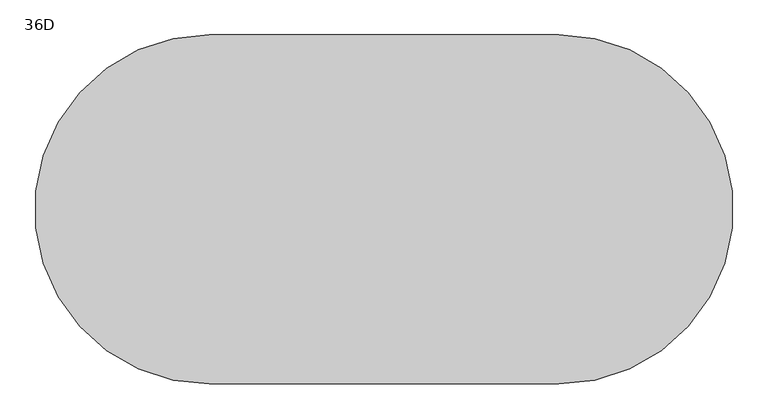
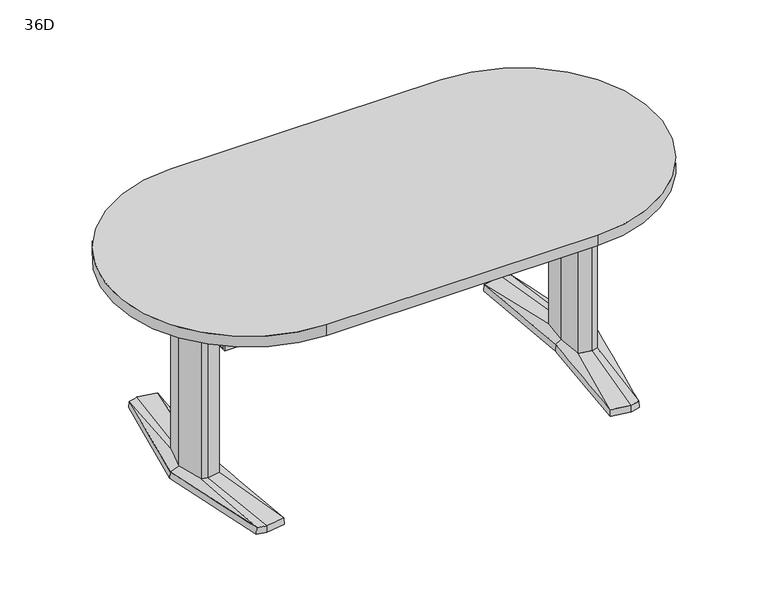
"""IFC4 building model written with IfcOpenShell, lengths in millimetres: furniture geometry, Coalesse_AM_Table_Conference_ETable2_Racetrack_72in_AluminiumBase : 36D."""

from ifc_helpers import new_model, si_unit, point, frame, frame_2d, origin, place, context, project, spatial, polyline, circle_curve, trimmed, segment, composite_curve, outline, extrude, source, transform, mapped, element, save
from ifc_brep_helpers import plane_surface, spline_surface, advanced_brep


def furniture_36d_105f3647(model_context):
    return source(origin(), model_context, "Body", "SolidModel", [
        advanced_brep(
        [(614.8503471, -379.3768856, 25.4), (644.5756636, -371.5332654, 25.4), (668.2327243, -89.293702, 36.5125), (648.9795254, -94.605478, 36.5125), (606.0521001, -87.0529327, 36.5125), (551.7612538, -368.5071562, 25.4), (597.9364207, 0.0, 36.5125), (579.8389754, 0.3970149, 25.4), (606.0521001, 87.0529327, 36.5125), (551.7615002, 368.5172593, 25.4), (648.9795254, 94.605478, 36.5125), (614.8502233, 379.3769183, 25.4), (668.2327243, 89.293702, 36.5125), (644.7535458, 371.4863276, 25.4), (692.1595251, 0.0, 36.5125), (721.4851663, 0.0003516, 25.4), (578.2468742, 0.3968871, 3.175), (550.06875, 369.8367279, 3.175), (614.9213004, 381.0, 3.175), (646.1093245, 372.7704151, 3.175), (723.10625, 0.0, 3.175), (645.9309817, -372.8174744, 3.175), (614.9213004, -381.0, 3.175), (550.06875, -369.8264415, 3.175), (649.5979264, 107.6121478, 3.175), (594.3065451, 97.8843184, 3.175), (585.1810887, 0.0, 3.175), (594.3065451, -97.8843184, 3.175), (649.5979264, -107.6121478, 3.175), (678.6183473, -99.6056872, 3.175), (705.3083085, 0.0, 3.175), (678.6183473, 99.6056872, 3.175), (613.4286812, 346.9152841, 3.175), (557.7811371, 337.3364985, 3.175), (560.1889918, 324.8641942, 3.175), (612.8600644, 333.9306305, 3.175), (648.6725609, 324.4807859, 3.175), (647.5544526, 337.9105158, 3.175), (613.4286812, -346.9152841, 3.175), (647.5544526, -337.9105158, 3.175), (648.6725609, -324.4807859, 3.175), (612.8600644, -333.9306305, 3.175), (560.1889918, -324.8641942, 3.175), (557.7811371, -337.3364985, 3.175), (649.5979264, 107.6121478, 0.0), (678.6183473, 99.6056872, 0.0), (705.3083085, 0.0, 0.0), (678.6183473, -99.6056872, 0.0), (649.5979264, -107.6121478, 0.0), (594.3065451, -97.8843184, 0.0), (585.1810887, 0.0, 0.0), (594.3065451, 97.8843184, 0.0), (613.4286812, 346.9152841, 0.0), (647.5544526, 337.9105158, 0.0), (648.6725609, 324.4807859, 0.0), (612.8600644, 333.9306305, 0.0), (560.1889918, 324.8641942, 0.0), (557.7811371, 337.3364985, 0.0), (613.4286812, -346.9152841, 0.0), (557.7811371, -337.3364985, 0.0), (560.1889918, -324.8641942, 0.0), (612.8600644, -333.9306305, 0.0), (648.6725609, -324.4807859, 0.0), (647.5544526, -337.9105158, 0.0), (668.2327243, 89.293702, 698.5), (648.9795254, 94.605478, 698.5), (606.0521001, 87.0529327, 698.5), (597.9364207, 0.0, 698.5), (606.0521001, -87.0529327, 698.5), (648.9795254, -94.605478, 698.5), (668.2327243, -89.293702, 698.5), (692.1595251, 0.0, 698.5)],
        [
            (0, 1),
            (1, 2),
            (2, 3),
            (3, 0),
            (3, 4),
            (4, 5),
            (5, 0),
            (4, 6),
            (6, 7),
            (7, 5),
            (6, 8),
            (8, 9),
            (9, 7),
            (8, 10),
            (10, 11),
            (11, 9),
            (10, 12),
            (12, 13),
            (13, 11),
            (12, 14),
            (14, 15),
            (15, 13),
            (1, 15),
            (14, 2),
            (16, 17),
            (17, 18),
            (18, 19),
            (19, 20),
            (20, 21),
            (21, 22),
            (22, 23),
            (23, 16),
            (24, 25),
            (25, 26),
            (26, 27),
            (27, 28),
            (28, 29),
            (29, 30),
            (30, 31),
            (31, 24),
            (32, 33),
            (33, 34),
            (34, 35),
            (35, 36),
            (36, 37),
            (37, 32),
            (38, 39),
            (39, 40),
            (40, 41),
            (41, 42),
            (42, 43),
            (43, 38),
            (16, 7),
            (9, 17),
            (11, 18),
            (13, 19),
            (15, 20),
            (1, 21),
            (0, 22),
            (5, 23),
            (44, 45),
            (45, 46),
            (46, 47),
            (47, 48),
            (48, 49),
            (49, 50),
            (50, 51),
            (51, 44),
            (52, 53),
            (53, 54),
            (54, 55),
            (55, 56),
            (56, 57),
            (57, 52),
            (58, 59),
            (59, 60),
            (60, 61),
            (61, 62),
            (62, 63),
            (63, 58),
            (44, 24),
            (31, 45),
            (30, 46),
            (29, 47),
            (28, 48),
            (27, 49),
            (26, 50),
            (25, 51),
            (52, 32),
            (37, 53),
            (36, 54),
            (35, 55),
            (34, 56),
            (33, 57),
            (58, 38),
            (43, 59),
            (42, 60),
            (41, 61),
            (40, 62),
            (39, 63),
            (64, 65),
            (65, 66),
            (66, 67),
            (67, 68),
            (68, 69),
            (69, 70),
            (70, 71),
            (71, 64),
            (71, 14),
            (12, 64),
            (70, 2),
            (69, 3),
            (68, 4),
            (67, 6),
            (66, 8),
            (65, 10),
        ],
        [
            spline_surface(1, 1, [[(644.5756636, -371.5332654, 25.4), (614.8503471, -379.3768856, 25.4)], [(668.2327243, -89.293702, 36.5125), (648.9795254, -94.605478, 36.5125)]], [2, 2], [2, 2], [0.0, 1.0], [0.0, 1.0]),
            spline_surface(1, 1, [[(614.8503471, -379.3768856, 25.4), (551.7612538, -368.5071562, 25.4)], [(648.9795254, -94.605478, 36.5125), (606.0521001, -87.0529327, 36.5125)]], [2, 2], [2, 2], [0.0, 1.0], [0.0, 1.0]),
            spline_surface(1, 1, [[(551.7612538, -368.5071562, 25.4), (579.8389754, 0.3970149, 25.4)], [(606.0521001, -87.0529327, 36.5125), (597.9364207, 0.0, 36.5125)]], [2, 2], [2, 2], [0.0, 1.0], [0.0, 1.0]),
            spline_surface(1, 1, [[(579.8389754, 0.3970149, 25.4), (551.7615002, 368.5172593, 25.4)], [(597.9364207, 0.0, 36.5125), (606.0521001, 87.0529327, 36.5125)]], [2, 2], [2, 2], [0.0, 1.0], [0.0, 1.0]),
            spline_surface(1, 1, [[(551.7615002, 368.5172593, 25.4), (614.8502233, 379.3769183, 25.4)], [(606.0521001, 87.0529327, 36.5125), (648.9795254, 94.605478, 36.5125)]], [2, 2], [2, 2], [0.0, 1.0], [0.0, 1.0]),
            spline_surface(1, 1, [[(614.8502233, 379.3769183, 25.4), (644.7535458, 371.4863276, 25.4)], [(648.9795254, 94.605478, 36.5125), (668.2327243, 89.293702, 36.5125)]], [2, 2], [2, 2], [0.0, 1.0], [0.0, 1.0]),
            spline_surface(1, 1, [[(644.7535458, 371.4863276, 25.4), (721.4851663, 0.0003516, 25.4)], [(668.2327243, 89.293702, 36.5125), (692.1595251, 0.0, 36.5125)]], [2, 2], [2, 2], [0.0, 1.0], [0.0, 1.0]),
            spline_surface(1, 1, [[(721.4851663, 0.0003516, 25.4), (644.5756636, -371.5332654, 25.4)], [(692.1595251, 0.0, 36.5125), (668.2327243, -89.293702, 36.5125)]], [2, 2], [2, 2], [0.0, 1.0], [0.0, 1.0]),
            plane_surface(frame((615.4216914, 0.0450143, 3.175), z_axis=(0.0, 0.0, -1.0), x_axis=(-0.9669048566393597, -0.2551372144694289, 0.0))),
            plane_surface(frame((564.1578121, 185.1168075, 3.175), z_axis=(-0.9945699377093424, -0.07585840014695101, 0.0712470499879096), x_axis=(-0.07605167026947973, 0.9971038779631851, 0.0))),
            plane_surface(frame((582.4950252, 375.418364, 3.175), z_axis=(-0.1692071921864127, 0.9830019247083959, 0.07124704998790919), x_axis=(0.985506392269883, 0.16963829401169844, 0.0))),
            plane_surface(frame((630.5153124, 376.8852076, 3.175), z_axis=(0.2544888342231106, 0.9644476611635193, 0.07124704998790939), x_axis=(0.9669048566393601, -0.25513721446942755, 0.0))),
            plane_surface(frame((684.6077872, 186.3852076, 3.175), z_axis=(0.9768383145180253, 0.2017690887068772, 0.07124704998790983), x_axis=(0.20228315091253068, -0.9793270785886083, 0.0))),
            plane_surface(frame((684.5186158, -186.4087372, 3.175), z_axis=(0.9767507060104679, -0.20219276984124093, 0.07124704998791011), x_axis=(-0.2027079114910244, -0.9792392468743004, 0.0))),
            plane_surface(frame((630.426141, -376.9087372, 3.175), z_axis=(0.2544888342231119, -0.9644476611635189, 0.0712470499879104), x_axis=(-0.9669048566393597, -0.2551372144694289, 0.0))),
            plane_surface(frame((582.4950252, -375.4132207, 3.175), z_axis=(-0.16935861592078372, -0.982975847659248, 0.07124704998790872), x_axis=(-0.9854802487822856, 0.16979010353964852, 0.0))),
            plane_surface(frame((564.1578121, -184.7147772, 3.175), z_axis=(-0.9945820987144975, 0.07569878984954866, 0.07124704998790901), x_axis=(0.07589165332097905, 0.9971160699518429, 0.0))),
            plane_surface(frame((652.3571479, 106.8509046, 0.0), z_axis=(0.0, 0.0, -1.0000000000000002), x_axis=(-0.9639855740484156, 0.26595453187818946, 0.0))),
            plane_surface(frame((649.5979264, 107.6121478, 3.175), z_axis=(0.26595453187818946, 0.9639855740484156, 0.0), x_axis=(0.0, 0.0, -1.0))),
            plane_surface(frame((678.6183473, 99.6056872, 3.175), z_axis=(0.9659241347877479, 0.2588253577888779, 0.0), x_axis=(0.0, 0.0, -1.0))),
            plane_surface(frame((705.3083085, 0.0, 3.175), z_axis=(0.9659241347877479, -0.2588253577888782, 0.0), x_axis=(0.0, 0.0, -1.0))),
            plane_surface(frame((678.6183473, -99.6056872, 3.175), z_axis=(0.26595453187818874, -0.9639855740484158, 0.0), x_axis=(0.0, 0.0, -1.0))),
            plane_surface(frame((649.5979264, -107.6121478, 3.175), z_axis=(-0.17327617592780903, -0.9848732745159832, 0.0), x_axis=(0.0, 0.0, -1.0))),
            plane_surface(frame((594.3065451, -97.8843184, 3.175), z_axis=(-0.9956824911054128, -0.0928244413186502, 0.0), x_axis=(0.0, 0.0, -1.0))),
            plane_surface(frame((585.1810887, 0.0, 3.175), z_axis=(-0.9956824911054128, 0.09282444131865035, 0.0), x_axis=(0.0, 0.0, -1.0))),
            plane_surface(frame((594.3065451, 97.8843184, 3.175), z_axis=(-0.17327617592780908, 0.984873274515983, 0.0), x_axis=(0.0, 0.0, -1.0))),
            plane_surface(frame((613.4286812, 346.9152841, 3.175), z_axis=(0.25513721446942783, 0.9669048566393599, 0.0), x_axis=(0.0, 0.0, -1.0))),
            plane_surface(frame((647.5544526, 337.9105158, 3.175), z_axis=(0.9965521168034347, 0.0829691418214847, 0.0), x_axis=(0.0, 0.0, -1.0))),
            plane_surface(frame((648.6725609, 324.4807859, 3.175), z_axis=(-0.25513721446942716, -0.9669048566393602, 0.0), x_axis=(0.0, 0.0, -1.0))),
            plane_surface(frame((612.8600644, 333.9306305, 3.175), z_axis=(0.16963829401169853, -0.985506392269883, 0.0), x_axis=(0.0, 0.0, -1.0))),
            plane_surface(frame((560.1889918, 324.8641942, 3.175), z_axis=(-0.9818699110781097, -0.18955600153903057, 0.0), x_axis=(0.0, 0.0, -1.0))),
            plane_surface(frame((557.7811371, 337.3364985, 3.175), z_axis=(-0.16963829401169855, 0.9855063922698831, 0.0), x_axis=(0.0, 0.0, -1.0))),
            plane_surface(frame((613.4286812, -346.9152841, 3.175), z_axis=(-0.1696382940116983, -0.9855063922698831, 0.0), x_axis=(0.0, 0.0, -1.0))),
            plane_surface(frame((557.7811371, -337.3364985, 3.175), z_axis=(-0.9818699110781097, 0.18955600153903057, 0.0), x_axis=(0.0, 0.0, -1.0))),
            plane_surface(frame((560.1889918, -324.8641942, 3.175), z_axis=(0.16963829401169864, 0.985506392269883, 0.0), x_axis=(0.0, 0.0, -1.0))),
            plane_surface(frame((612.8600644, -333.9306305, 3.175), z_axis=(-0.2551372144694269, 0.9669048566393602, 0.0), x_axis=(0.0, 0.0, -1.0))),
            plane_surface(frame((648.6725609, -324.4807859, 3.175), z_axis=(0.9965521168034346, -0.0829691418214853, 0.0), x_axis=(0.0, 0.0, -1.0))),
            plane_surface(frame((647.5544526, -337.9105158, 3.175), z_axis=(0.2551372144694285, -0.9669048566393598, 0.0), x_axis=(0.0, 0.0, -1.0))),
            plane_surface(frame((692.1595251, 0.0, 698.5), z_axis=(0.0, 0.0, 1.0), x_axis=(0.25882535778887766, -0.965924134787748, 0.0))),
            plane_surface(frame((668.2327243, 89.293702, 698.5), z_axis=(0.965924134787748, 0.25882535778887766, 0.0), x_axis=(0.0, 0.0, -1.0))),
            plane_surface(frame((692.1595251, 0.0, 698.5), z_axis=(0.965924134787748, -0.2588253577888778, 0.0), x_axis=(0.0, 0.0, -1.0))),
            plane_surface(frame((668.2327243, -89.293702, 698.5), z_axis=(0.2659545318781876, -0.963985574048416, 0.0), x_axis=(0.0, 0.0, -1.0))),
            plane_surface(frame((648.9795254, -94.605478, 698.5), z_axis=(-0.1732761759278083, -0.9848732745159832, 0.0), x_axis=(0.0, 0.0, -1.0))),
            plane_surface(frame((606.0521001, -87.0529327, 698.5), z_axis=(-0.9956824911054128, -0.0928244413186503, 0.0), x_axis=(0.0, 0.0, -1.0))),
            plane_surface(frame((597.9364207, 0.0, 698.5), z_axis=(-0.9956824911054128, 0.09282444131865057, 0.0), x_axis=(0.0, 0.0, -1.0))),
            plane_surface(frame((606.0521001, 87.0529327, 698.5), z_axis=(-0.17327617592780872, 0.9848732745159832, 0.0), x_axis=(0.0, 0.0, -1.0))),
            plane_surface(frame((648.9795254, 94.605478, 698.5), z_axis=(0.26595453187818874, 0.9639855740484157, 0.0), x_axis=(0.0, 0.0, -1.0))),
        ],
        [
            (0, [[1, 2, 3, 4]]),
            (1, [[5, 6, 7, -4]]),
            (2, [[8, 9, 10, -6]]),
            (3, [[11, 12, 13, -9]]),
            (4, [[14, 15, 16, -12]]),
            (5, [[17, 18, 19, -15]]),
            (6, [[20, 21, 22, -18]]),
            (7, [[23, -21, 24, -2]]),
            (8, [[25, 26, 27, 28, 29, 30, 31, 32], [33, 34, 35, 36, 37, 38, 39, 40], [41, 42, 43, 44, 45, 46], [47, 48, 49, 50, 51, 52]]),
            (9, [[53, -13, 54, -25]]),
            (10, [[-54, -16, 55, -26]]),
            (11, [[-55, -19, 56, -27]]),
            (12, [[-56, -22, 57, -28]]),
            (13, [[-57, -23, 58, -29]]),
            (14, [[-58, -1, 59, -30]]),
            (15, [[-59, -7, 60, -31]]),
            (16, [[-60, -10, -53, -32]]),
            (17, [[61, 62, 63, 64, 65, 66, 67, 68]]),
            (17, [[69, 70, 71, 72, 73, 74]]),
            (17, [[75, 76, 77, 78, 79, 80]]),
            (18, [[81, -40, 82, -61]]),
            (19, [[-82, -39, 83, -62]]),
            (20, [[-83, -38, 84, -63]]),
            (21, [[-84, -37, 85, -64]]),
            (22, [[-85, -36, 86, -65]]),
            (23, [[-86, -35, 87, -66]]),
            (24, [[-87, -34, 88, -67]]),
            (25, [[-88, -33, -81, -68]]),
            (26, [[89, -46, 90, -69]]),
            (27, [[-90, -45, 91, -70]]),
            (28, [[-91, -44, 92, -71]]),
            (29, [[-92, -43, 93, -72]]),
            (30, [[-93, -42, 94, -73]]),
            (31, [[-94, -41, -89, -74]]),
            (32, [[95, -52, 96, -75]]),
            (33, [[-96, -51, 97, -76]]),
            (34, [[-97, -50, 98, -77]]),
            (35, [[-98, -49, 99, -78]]),
            (36, [[-99, -48, 100, -79]]),
            (37, [[-100, -47, -95, -80]]),
            (38, [[101, 102, 103, 104, 105, 106, 107, 108]]),
            (39, [[109, -20, 110, -108]]),
            (40, [[111, -24, -109, -107]]),
            (41, [[112, -3, -111, -106]]),
            (42, [[113, -5, -112, -105]]),
            (43, [[114, -8, -113, -104]]),
            (44, [[115, -11, -114, -103]]),
            (45, [[116, -14, -115, -102]]),
            (46, [[-110, -17, -116, -101]]),
        ],
    ),
        advanced_brep(
        [(-614.8503471, -379.3768856, 25.4), (-648.9795254, -94.605478, 36.5125), (-668.2327243, -89.293702, 36.5125), (-644.5756636, -371.5332654, 25.4), (-551.7612538, -368.5071562, 25.4), (-606.0521001, -87.0529327, 36.5125), (-579.8389754, 0.3970149, 25.4), (-597.9364207, 0.0, 36.5125), (-551.7615002, 368.5172593, 25.4), (-606.0521001, 87.0529327, 36.5125), (-614.8502233, 379.3769183, 25.4), (-648.9795254, 94.605478, 36.5125), (-644.7535458, 371.4863276, 25.4), (-668.2327243, 89.293702, 36.5125), (-721.4851663, 0.0003516, 25.4), (-692.1595251, 0.0, 36.5125), (-578.2468742, 0.3968871, 3.175), (-550.06875, -369.8264415, 3.175), (-614.9213004, -381.0, 3.175), (-645.9309817, -372.8174744, 3.175), (-723.10625, 0.0, 3.175), (-646.1093245, 372.7704151, 3.175), (-614.9213004, 381.0, 3.175), (-550.06875, 369.8367279, 3.175), (-649.5979264, 107.6121478, 3.175), (-678.6183473, 99.6056872, 3.175), (-705.3083085, 0.0, 3.175), (-678.6183473, -99.6056872, 3.175), (-649.5979264, -107.6121478, 3.175), (-594.3065451, -97.8843184, 3.175), (-585.1810887, 0.0, 3.175), (-594.3065451, 97.8843184, 3.175), (-613.4286812, 346.9152841, 3.175), (-647.5544526, 337.9105158, 3.175), (-648.6725609, 324.4807859, 3.175), (-612.8600644, 333.9306305, 3.175), (-560.1889918, 324.8641942, 3.175), (-557.7811371, 337.3364985, 3.175), (-613.4286812, -346.9152841, 3.175), (-557.7811371, -337.3364985, 3.175), (-560.1889918, -324.8641942, 3.175), (-612.8600644, -333.9306305, 3.175), (-648.6725609, -324.4807859, 3.175), (-647.5544526, -337.9105158, 3.175), (-649.5979264, 107.6121478, 0.0), (-594.3065451, 97.8843184, 0.0), (-585.1810887, 0.0, 0.0), (-594.3065451, -97.8843184, 0.0), (-649.5979264, -107.6121478, 0.0), (-678.6183473, -99.6056872, 0.0), (-705.3083085, 0.0, 0.0), (-678.6183473, 99.6056872, 0.0), (-613.4286812, 346.9152841, 0.0), (-557.7811371, 337.3364985, 0.0), (-560.1889918, 324.8641942, 0.0), (-612.8600644, 333.9306305, 0.0), (-648.6725609, 324.4807859, 0.0), (-647.5544526, 337.9105158, 0.0), (-613.4286812, -346.9152841, 0.0), (-647.5544526, -337.9105158, 0.0), (-648.6725609, -324.4807859, 0.0), (-612.8600644, -333.9306305, 0.0), (-560.1889918, -324.8641942, 0.0), (-557.7811371, -337.3364985, 0.0), (-668.2327243, 89.293702, 698.5), (-692.1595251, 0.0, 698.5), (-668.2327243, -89.293702, 698.5), (-648.9795254, -94.605478, 698.5), (-606.0521001, -87.0529327, 698.5), (-597.9364207, 0.0, 698.5), (-606.0521001, 87.0529327, 698.5), (-648.9795254, 94.605478, 698.5)],
        [
            (0, 1),
            (1, 2),
            (2, 3),
            (3, 0),
            (0, 4),
            (4, 5),
            (5, 1),
            (4, 6),
            (6, 7),
            (7, 5),
            (6, 8),
            (8, 9),
            (9, 7),
            (8, 10),
            (10, 11),
            (11, 9),
            (10, 12),
            (12, 13),
            (13, 11),
            (12, 14),
            (14, 15),
            (15, 13),
            (2, 15),
            (14, 3),
            (16, 17),
            (17, 18),
            (18, 19),
            (19, 20),
            (20, 21),
            (21, 22),
            (22, 23),
            (23, 16),
            (24, 25),
            (25, 26),
            (26, 27),
            (27, 28),
            (28, 29),
            (29, 30),
            (30, 31),
            (31, 24),
            (32, 33),
            (33, 34),
            (34, 35),
            (35, 36),
            (36, 37),
            (37, 32),
            (38, 39),
            (39, 40),
            (40, 41),
            (41, 42),
            (42, 43),
            (43, 38),
            (23, 8),
            (6, 16),
            (22, 10),
            (21, 12),
            (20, 14),
            (19, 3),
            (18, 0),
            (17, 4),
            (44, 45),
            (45, 46),
            (46, 47),
            (47, 48),
            (48, 49),
            (49, 50),
            (50, 51),
            (51, 44),
            (52, 53),
            (53, 54),
            (54, 55),
            (55, 56),
            (56, 57),
            (57, 52),
            (58, 59),
            (59, 60),
            (60, 61),
            (61, 62),
            (62, 63),
            (63, 58),
            (51, 25),
            (24, 44),
            (50, 26),
            (49, 27),
            (48, 28),
            (47, 29),
            (46, 30),
            (45, 31),
            (57, 33),
            (32, 52),
            (56, 34),
            (55, 35),
            (54, 36),
            (53, 37),
            (63, 39),
            (38, 58),
            (62, 40),
            (61, 41),
            (60, 42),
            (59, 43),
            (64, 65),
            (65, 66),
            (66, 67),
            (67, 68),
            (68, 69),
            (69, 70),
            (70, 71),
            (71, 64),
            (64, 13),
            (15, 65),
            (2, 66),
            (1, 67),
            (5, 68),
            (7, 69),
            (9, 70),
            (11, 71),
        ],
        [
            spline_surface(1, 1, [[(-644.5756636, -371.5332654, 25.4), (-668.2327243, -89.293702, 36.5125)], [(-614.8503471, -379.3768856, 25.4), (-648.9795254, -94.605478, 36.5125)]], [2, 2], [2, 2], [0.0, 1.0], [0.0, 1.0]),
            spline_surface(1, 1, [[(-614.8503471, -379.3768856, 25.4), (-648.9795254, -94.605478, 36.5125)], [(-551.7612538, -368.5071562, 25.4), (-606.0521001, -87.0529327, 36.5125)]], [2, 2], [2, 2], [0.0, 1.0], [0.0, 1.0]),
            spline_surface(1, 1, [[(-551.7612538, -368.5071562, 25.4), (-606.0521001, -87.0529327, 36.5125)], [(-579.8389754, 0.3970149, 25.4), (-597.9364207, 0.0, 36.5125)]], [2, 2], [2, 2], [0.0, 1.0], [0.0, 1.0]),
            spline_surface(1, 1, [[(-579.8389754, 0.3970149, 25.4), (-597.9364207, 0.0, 36.5125)], [(-551.7615002, 368.5172593, 25.4), (-606.0521001, 87.0529327, 36.5125)]], [2, 2], [2, 2], [0.0, 1.0], [0.0, 1.0]),
            spline_surface(1, 1, [[(-551.7615002, 368.5172593, 25.4), (-606.0521001, 87.0529327, 36.5125)], [(-614.8502233, 379.3769183, 25.4), (-648.9795254, 94.605478, 36.5125)]], [2, 2], [2, 2], [0.0, 1.0], [0.0, 1.0]),
            spline_surface(1, 1, [[(-614.8502233, 379.3769183, 25.4), (-648.9795254, 94.605478, 36.5125)], [(-644.7535458, 371.4863276, 25.4), (-668.2327243, 89.293702, 36.5125)]], [2, 2], [2, 2], [0.0, 1.0], [0.0, 1.0]),
            spline_surface(1, 1, [[(-644.7535458, 371.4863276, 25.4), (-668.2327243, 89.293702, 36.5125)], [(-721.4851663, 0.0003516, 25.4), (-692.1595251, 0.0, 36.5125)]], [2, 2], [2, 2], [0.0, 1.0], [0.0, 1.0]),
            spline_surface(1, 1, [[(-721.4851663, 0.0003516, 25.4), (-692.1595251, 0.0, 36.5125)], [(-644.5756636, -371.5332654, 25.4), (-668.2327243, -89.293702, 36.5125)]], [2, 2], [2, 2], [0.0, 1.0], [0.0, 1.0]),
            plane_surface(frame((-615.4216914, 0.0450143, 3.175), z_axis=(0.0, 0.0, -1.0), x_axis=(0.9669048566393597, -0.2551372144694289, 0.0))),
            plane_surface(frame((-564.1578121, 185.1168075, 3.175), z_axis=(0.9945699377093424, -0.07585840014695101, 0.0712470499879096), x_axis=(0.07605167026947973, 0.9971038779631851, 0.0))),
            plane_surface(frame((-582.4950252, 375.418364, 3.175), z_axis=(0.1692071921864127, 0.9830019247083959, 0.07124704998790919), x_axis=(-0.985506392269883, 0.16963829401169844, 0.0))),
            plane_surface(frame((-630.5153124, 376.8852076, 3.175), z_axis=(-0.2544888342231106, 0.9644476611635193, 0.07124704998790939), x_axis=(-0.9669048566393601, -0.25513721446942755, 0.0))),
            plane_surface(frame((-684.6077872, 186.3852076, 3.175), z_axis=(-0.9768383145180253, 0.2017690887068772, 0.07124704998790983), x_axis=(-0.20228315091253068, -0.9793270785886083, 0.0))),
            plane_surface(frame((-684.5186158, -186.4087372, 3.175), z_axis=(-0.9767507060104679, -0.20219276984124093, 0.07124704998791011), x_axis=(0.2027079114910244, -0.9792392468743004, 0.0))),
            plane_surface(frame((-630.426141, -376.9087372, 3.175), z_axis=(-0.2544888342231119, -0.9644476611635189, 0.0712470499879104), x_axis=(0.9669048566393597, -0.2551372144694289, 0.0))),
            plane_surface(frame((-582.4950252, -375.4132207, 3.175), z_axis=(0.16935861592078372, -0.982975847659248, 0.07124704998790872), x_axis=(0.9854802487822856, 0.16979010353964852, 0.0))),
            plane_surface(frame((-564.1578121, -184.7147772, 3.175), z_axis=(0.9945820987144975, 0.07569878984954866, 0.07124704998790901), x_axis=(-0.07589165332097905, 0.9971160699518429, 0.0))),
            plane_surface(frame((-652.3571479, 106.8509046, 0.0), z_axis=(0.0, 0.0, -1.0000000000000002), x_axis=(0.9639855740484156, 0.26595453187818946, 0.0))),
            plane_surface(frame((-649.5979264, 107.6121478, 3.175), z_axis=(-0.26595453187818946, 0.9639855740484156, 0.0), x_axis=(0.0, 0.0, -1.0))),
            plane_surface(frame((-678.6183473, 99.6056872, 3.175), z_axis=(-0.9659241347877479, 0.2588253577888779, 0.0), x_axis=(0.0, 0.0, -1.0))),
            plane_surface(frame((-705.3083085, 0.0, 3.175), z_axis=(-0.9659241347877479, -0.2588253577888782, 0.0), x_axis=(0.0, 0.0, -1.0))),
            plane_surface(frame((-678.6183473, -99.6056872, 3.175), z_axis=(-0.26595453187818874, -0.9639855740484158, 0.0), x_axis=(0.0, 0.0, -1.0))),
            plane_surface(frame((-649.5979264, -107.6121478, 3.175), z_axis=(0.17327617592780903, -0.9848732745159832, 0.0), x_axis=(0.0, 0.0, -1.0))),
            plane_surface(frame((-594.3065451, -97.8843184, 3.175), z_axis=(0.9956824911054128, -0.0928244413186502, 0.0), x_axis=(0.0, 0.0, -1.0))),
            plane_surface(frame((-585.1810887, 0.0, 3.175), z_axis=(0.9956824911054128, 0.09282444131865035, 0.0), x_axis=(0.0, 0.0, -1.0))),
            plane_surface(frame((-594.3065451, 97.8843184, 3.175), z_axis=(0.17327617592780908, 0.984873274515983, 0.0), x_axis=(0.0, 0.0, -1.0))),
            plane_surface(frame((-613.4286812, 346.9152841, 3.175), z_axis=(-0.25513721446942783, 0.9669048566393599, 0.0), x_axis=(0.0, 0.0, -1.0))),
            plane_surface(frame((-647.5544526, 337.9105158, 3.175), z_axis=(-0.9965521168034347, 0.0829691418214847, 0.0), x_axis=(0.0, 0.0, -1.0))),
            plane_surface(frame((-648.6725609, 324.4807859, 3.175), z_axis=(0.25513721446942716, -0.9669048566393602, 0.0), x_axis=(0.0, 0.0, -1.0))),
            plane_surface(frame((-612.8600644, 333.9306305, 3.175), z_axis=(-0.16963829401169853, -0.985506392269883, 0.0), x_axis=(0.0, 0.0, -1.0))),
            plane_surface(frame((-560.1889918, 324.8641942, 3.175), z_axis=(0.9818699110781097, -0.18955600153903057, 0.0), x_axis=(0.0, 0.0, -1.0))),
            plane_surface(frame((-557.7811371, 337.3364985, 3.175), z_axis=(0.16963829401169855, 0.9855063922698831, 0.0), x_axis=(0.0, 0.0, -1.0))),
            plane_surface(frame((-613.4286812, -346.9152841, 3.175), z_axis=(0.1696382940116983, -0.9855063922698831, 0.0), x_axis=(0.0, 0.0, -1.0))),
            plane_surface(frame((-557.7811371, -337.3364985, 3.175), z_axis=(0.9818699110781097, 0.18955600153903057, 0.0), x_axis=(0.0, 0.0, -1.0))),
            plane_surface(frame((-560.1889918, -324.8641942, 3.175), z_axis=(-0.16963829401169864, 0.985506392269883, 0.0), x_axis=(0.0, 0.0, -1.0))),
            plane_surface(frame((-612.8600644, -333.9306305, 3.175), z_axis=(0.2551372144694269, 0.9669048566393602, 0.0), x_axis=(0.0, 0.0, -1.0))),
            plane_surface(frame((-648.6725609, -324.4807859, 3.175), z_axis=(-0.9965521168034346, -0.0829691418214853, 0.0), x_axis=(0.0, 0.0, -1.0))),
            plane_surface(frame((-647.5544526, -337.9105158, 3.175), z_axis=(-0.2551372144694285, -0.9669048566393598, 0.0), x_axis=(0.0, 0.0, -1.0))),
            plane_surface(frame((-692.1595251, 0.0, 698.5), z_axis=(0.0, 0.0, 1.0), x_axis=(-0.25882535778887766, -0.965924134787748, 0.0))),
            plane_surface(frame((-668.2327243, 89.293702, 698.5), z_axis=(-0.965924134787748, 0.25882535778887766, 0.0), x_axis=(0.0, 0.0, -1.0))),
            plane_surface(frame((-692.1595251, 0.0, 698.5), z_axis=(-0.965924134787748, -0.2588253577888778, 0.0), x_axis=(0.0, 0.0, -1.0))),
            plane_surface(frame((-668.2327243, -89.293702, 698.5), z_axis=(-0.2659545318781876, -0.963985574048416, 0.0), x_axis=(0.0, 0.0, -1.0))),
            plane_surface(frame((-648.9795254, -94.605478, 698.5), z_axis=(0.1732761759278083, -0.9848732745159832, 0.0), x_axis=(0.0, 0.0, -1.0))),
            plane_surface(frame((-606.0521001, -87.0529327, 698.5), z_axis=(0.9956824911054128, -0.0928244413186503, 0.0), x_axis=(0.0, 0.0, -1.0))),
            plane_surface(frame((-597.9364207, 0.0, 698.5), z_axis=(0.9956824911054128, 0.09282444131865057, 0.0), x_axis=(0.0, 0.0, -1.0))),
            plane_surface(frame((-606.0521001, 87.0529327, 698.5), z_axis=(0.17327617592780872, 0.9848732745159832, 0.0), x_axis=(0.0, 0.0, -1.0))),
            plane_surface(frame((-648.9795254, 94.605478, 698.5), z_axis=(-0.26595453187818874, 0.9639855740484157, 0.0), x_axis=(0.0, 0.0, -1.0))),
        ],
        [
            (0, [[1, 2, 3, 4]]),
            (1, [[-1, 5, 6, 7]]),
            (2, [[-6, 8, 9, 10]]),
            (3, [[-9, 11, 12, 13]]),
            (4, [[-12, 14, 15, 16]]),
            (5, [[-15, 17, 18, 19]]),
            (6, [[-18, 20, 21, 22]]),
            (7, [[-3, 23, -21, 24]]),
            (8, [[25, 26, 27, 28, 29, 30, 31, 32], [33, 34, 35, 36, 37, 38, 39, 40], [41, 42, 43, 44, 45, 46], [47, 48, 49, 50, 51, 52]]),
            (9, [[-32, 53, -11, 54]]),
            (10, [[-31, 55, -14, -53]]),
            (11, [[-30, 56, -17, -55]]),
            (12, [[-29, 57, -20, -56]]),
            (13, [[-28, 58, -24, -57]]),
            (14, [[-27, 59, -4, -58]]),
            (15, [[-26, 60, -5, -59]]),
            (16, [[-25, -54, -8, -60]]),
            (17, [[61, 62, 63, 64, 65, 66, 67, 68]]),
            (17, [[69, 70, 71, 72, 73, 74]]),
            (17, [[75, 76, 77, 78, 79, 80]]),
            (18, [[-68, 81, -33, 82]]),
            (19, [[-67, 83, -34, -81]]),
            (20, [[-66, 84, -35, -83]]),
            (21, [[-65, 85, -36, -84]]),
            (22, [[-64, 86, -37, -85]]),
            (23, [[-63, 87, -38, -86]]),
            (24, [[-62, 88, -39, -87]]),
            (25, [[-61, -82, -40, -88]]),
            (26, [[-74, 89, -41, 90]]),
            (27, [[-73, 91, -42, -89]]),
            (28, [[-72, 92, -43, -91]]),
            (29, [[-71, 93, -44, -92]]),
            (30, [[-70, 94, -45, -93]]),
            (31, [[-69, -90, -46, -94]]),
            (32, [[-80, 95, -47, 96]]),
            (33, [[-79, 97, -48, -95]]),
            (34, [[-78, 98, -49, -97]]),
            (35, [[-77, 99, -50, -98]]),
            (36, [[-76, 100, -51, -99]]),
            (37, [[-75, -96, -52, -100]]),
            (38, [[101, 102, 103, 104, 105, 106, 107, 108]]),
            (39, [[-101, 109, -22, 110]]),
            (40, [[-102, -110, -23, 111]]),
            (41, [[-103, -111, -2, 112]]),
            (42, [[-104, -112, -7, 113]]),
            (43, [[-105, -113, -10, 114]]),
            (44, [[-106, -114, -13, 115]]),
            (45, [[-107, -115, -16, 116]]),
            (46, [[-108, -116, -19, -109]]),
        ],
    ),
        extrude(outline(polyline([(96.8375, 698.5), (103.1875, 698.5), (103.1875, 476.25), (-103.1875, 476.25), (-103.1875, 698.5), (-96.8375, 698.5), (-96.8375, 482.6), (96.8375, 482.6), (96.8375, 698.5)])), frame((-597.9364207, 0.0, 0.0), z_axis=(1.0, 0.0, 0.0), x_axis=(0.0, 1.0, 0.0)), (0.0, 0.0, 1.0), 1195.8728415),
        extrude(outline(composite_curve([segment(trimmed(circle_curve(frame_2d((-457.2, 0.0)), 457.2), [point((-457.2, -457.2))], [point((-457.2, 457.2))], False, "CARTESIAN"), True, "CONTINUOUS"), segment(polyline([(-457.2, 457.2), (457.2, 457.2)]), True, "CONTINUOUS"), segment(trimmed(circle_curve(frame_2d((457.2, 0.0)), 457.2), [point((457.2, 457.2))], [point((457.2, -457.2))], False, "CARTESIAN"), True, "CONTINUOUS"), segment(polyline([(457.2, -457.2), (-457.2, -457.2)]), True, "CONTINUOUS")], self_intersect=False)), frame((0.0, 0.0, 698.5), z_axis=(0.0, 0.0, 1.0), x_axis=(1.0, 0.0, 0.0)), (0.0, 0.0, 1.0), 38.1),
    ])


if __name__ == "__main__":
    model = new_model("IFC4")
    model_context = context("Model", 3, world=origin())
    ifc_project = project(units=[si_unit("LENGTHUNIT", "METRE", prefix="MILLI")], contexts=[model_context])
    site = spatial("IfcSite", under=ifc_project)
    building = spatial("IfcBuilding", under=site)
    placement = place(None, origin())
    furniture_36d_shape = furniture_36d_105f3647(model_context)
    element("IfcFurniture", 1, ObjectType="Coalesse_AM_Table_Conference_ETable2_Racetrack_72in_AluminiumBase : 36D", at=placement, inside=building, context=model_context, shape_type="MappedRepresentation", body=[
        mapped(furniture_36d_shape, transform((0.0, 0.0, 0.0), x_axis=(1.0, 0.0, 0.0), y_axis=(0.0, 1.0, 0.0), z_axis=(0.0, 0.0, 1.0))),
    ])
    save(model, "model.ifc")
